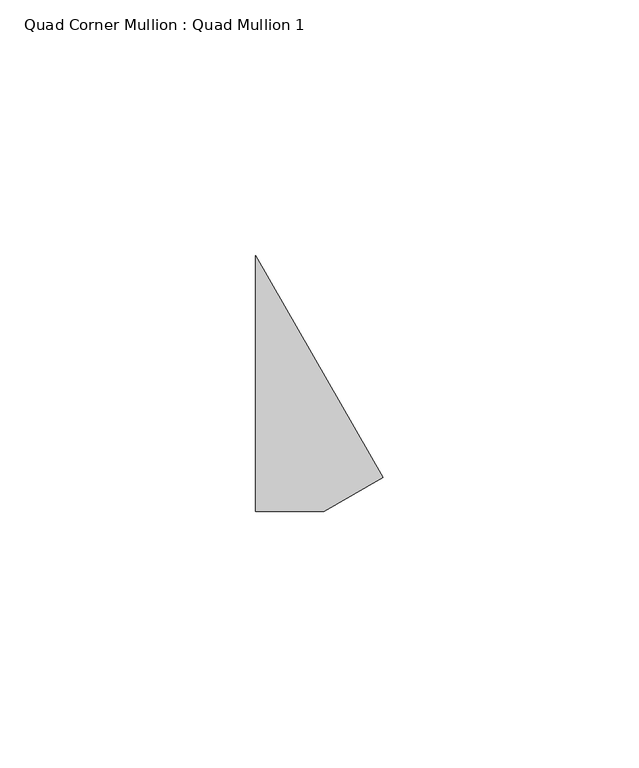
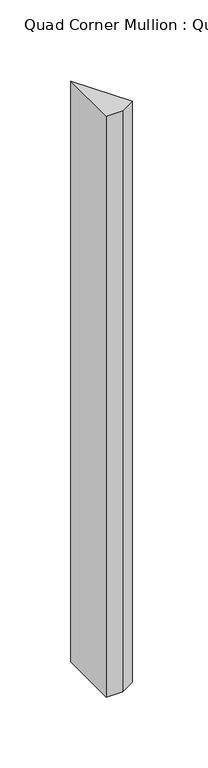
"""IFC4 building model written with IfcOpenShell, lengths in millimetres: member geometry, Quad Corner Mullion : Quad Mullion 1."""

from ifc_helpers import new_model, si_unit, frame, origin, place, context, project, spatial, polyline, outline, extrude, source, transform, mapped, element, save


def quad_corner_mullion_quad_mullion_1_b013e5ba(model_context):
    return source(origin(), model_context, "Body", "SweptSolid", [
        extrude(outline(polyline([(18.2517715, -18.3425598), (6.6765759, -25.0), (-6.6765759, -25.0), (-6.6765759, 25.0), (18.2517715, -18.3425598)])), frame((0.0, 0.0, -500.0), z_axis=(0.0, 0.0, 1.0), x_axis=(1.0, 0.0, 0.0)), (0.0, 0.0, 1.0), 500.0),
    ])


if __name__ == "__main__":
    model = new_model("IFC4")
    model_context = context("Model", 3, world=origin())
    ifc_project = project(units=[si_unit("LENGTHUNIT", "METRE", prefix="MILLI")], contexts=[model_context])
    site = spatial("IfcSite", under=ifc_project)
    building = spatial("IfcBuilding", under=site)
    placement = place(None, origin())
    quad_corner_mullion_quad_mullion_1_shape = quad_corner_mullion_quad_mullion_1_b013e5ba(model_context)
    element("IfcMember", 1, ObjectType="Quad Corner Mullion : Quad Mullion 1", at=placement, inside=building, context=model_context, shape_type="MappedRepresentation", body=[
        mapped(quad_corner_mullion_quad_mullion_1_shape, transform((0.0, 0.0, 0.0), x_axis=(1.0, 0.0, 0.0), y_axis=(0.0, 1.0, 0.0), z_axis=(0.0, 0.0, 1.0))),
    ])
    save(model, "model.ifc")
